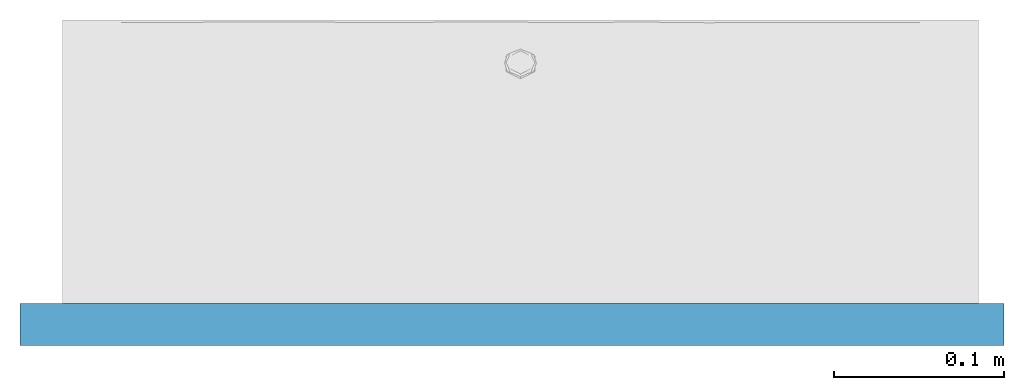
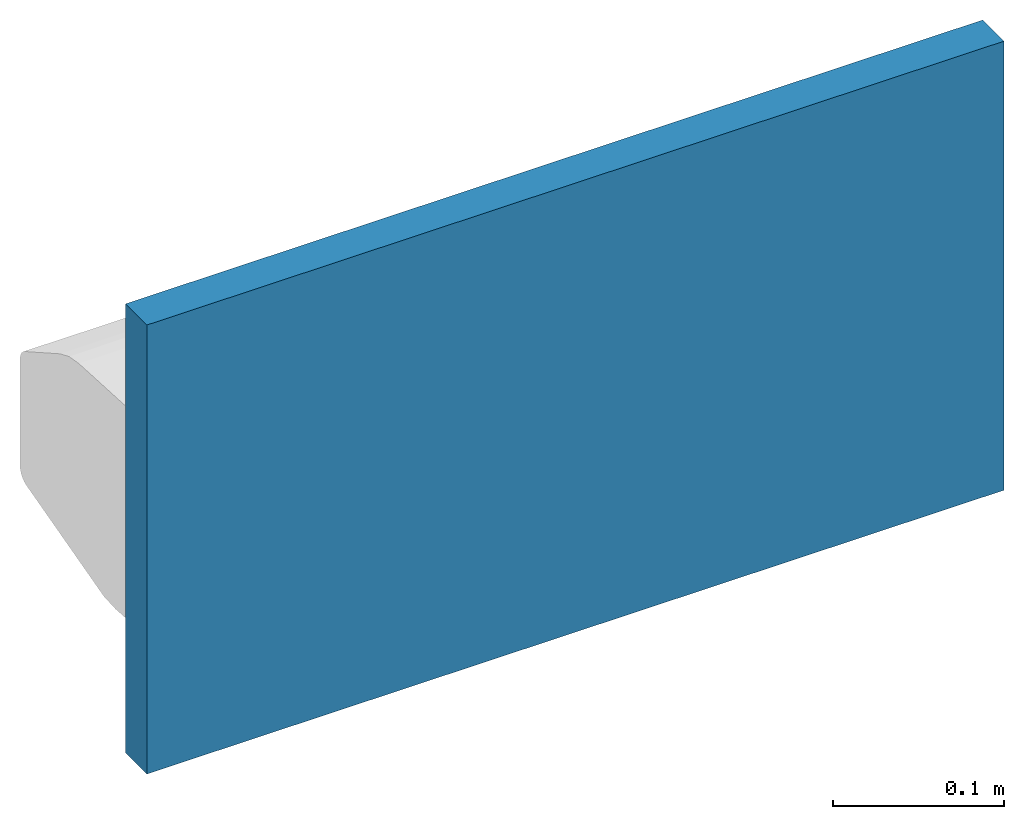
# One storey, part 1 of 2: 1 wall.
"""IFC2X3 building model written with IfcOpenShell, lengths in millimetres."""

import ifcopenshell
import ifcopenshell.guid

model = None  # the IFC model being written
_history = None  # IfcOwnerHistory: only IFC2X3 demands one
_inside = {}  # id of a spatial element -> (the spatial element, [elements in it])
_under = {}  # id of a project, library or spatial element -> (it, [spatial elements below it])
_declared = {}  # id of a project -> (the project, [libraries it declares])
_typed = {}  # id of a type object -> (the type object, [elements of that type])
_made_of = {}  # id of a material, layer set ... -> (it, [elements and type objects made of it])


def new_model(schema):
    """Start an empty IFC model of exactly this schema.

    Asked for "IFC4X3", IfcOpenShell would pick the latest addendum, in which some entities
    have other attributes; the version numbers below select the first issue.
    IFC2X3 requires an IfcOwnerHistory on every rooted entity: one is made here for all.
    """
    global model, _history
    if schema == "IFC4X3":
        model = ifcopenshell.file(schema_version=(4, 3, 0, 0))
    else:
        model = ifcopenshell.file(schema=schema)
    _inside.clear()
    _under.clear()
    _declared.clear()
    _typed.clear()
    _made_of.clear()
    _history = None
    if model.schema == "IFC2X3":
        org = make("IfcOrganization", Name="unknown")
        user = make(
            "IfcPersonAndOrganization",
            ThePerson=make("IfcPerson", FamilyName="unknown"),
            TheOrganization=org,
        )
        app = make(
            "IfcApplication",
            ApplicationDeveloper=org,
            Version="unknown",
            ApplicationFullName="unknown",
            ApplicationIdentifier="unknown",
        )
        _history = make(
            "IfcOwnerHistory",
            OwningUser=user,
            OwningApplication=app,
            ChangeAction="ADDED",
            CreationDate=0,
        )
    return model


def make(cls, **values):
    """One entity of the class cls with the attributes given. An attribute that is None is left unset."""
    return model.create_entity(
        cls, **{name: value for name, value in values.items() if value is not None}
    )


def entity(cls, *values):
    """Any entity or typed value of the class cls, its attributes in the order of the schema. None: left unset."""
    e = model.create_entity(cls)
    for i, value in enumerate(values):
        if value is not None:
            e[i] = value
    return e


def rooted(cls, **values):
    """An entity with a GlobalId (a new one), such as an element, a storey or a relation."""
    return make(cls, GlobalId=ifcopenshell.guid.new(), OwnerHistory=_history, **values)


def si_unit(unit_type, name, prefix=None):
    """IfcSIUnit, for example si_unit("LENGTHUNIT", "METRE", prefix="MILLI")."""
    return make("IfcSIUnit", UnitType=unit_type, Prefix=prefix, Name=name)


def converted_unit(unit_type, name, factor, base, dimensions=None, offset=None):
    """IfcConversionBasedUnit, such as the inch: factor (a typed value) times the base unit."""
    return make(
        "IfcConversionBasedUnit"
        if offset is None
        else "IfcConversionBasedUnitWithOffset",
        ConversionOffset=offset,
        Dimensions=None
        if dimensions is None
        else entity("IfcDimensionalExponents", *dimensions),
        UnitType=unit_type,
        Name=name,
        ConversionFactor=make(
            "IfcMeasureWithUnit", ValueComponent=factor, UnitComponent=base
        ),
    )


def derived_unit(unit_type, elements):
    """IfcDerivedUnit: a product of units, each with its exponent."""
    return make(
        "IfcDerivedUnit",
        Elements=[
            make("IfcDerivedUnitElement", Unit=unit, Exponent=power)
            for unit, power in elements
        ],
        UnitType=unit_type,
    )


def assignment(units):
    """IfcUnitAssignment: the units of a project."""
    return None if units is None else make("IfcUnitAssignment", Units=units)


def point(xyz):
    """IfcCartesianPoint."""
    return None if xyz is None else make("IfcCartesianPoint", Coordinates=xyz)


def direction(xyz):
    """IfcDirection."""
    return None if xyz is None else make("IfcDirection", DirectionRatios=xyz)


def frame(location, z_axis=None, x_axis=None):
    """IfcAxis2Placement3D, a coordinate frame: its origin and axes. An axis left out is left unset."""
    return make(
        "IfcAxis2Placement3D",
        Location=point(location),
        Axis=direction(z_axis),
        RefDirection=direction(x_axis),
    )


def frame_2d(location, x_axis=None):
    """IfcAxis2Placement2D, a coordinate frame in the plane: its origin and x axis."""
    return make(
        "IfcAxis2Placement2D", Location=point(location), RefDirection=direction(x_axis)
    )


def origin():
    """The frame at (0, 0, 0) with its axes left unset."""
    return frame((0.0, 0.0, 0.0))


def place(relative_to, where):
    """IfcLocalPlacement: puts the frame where relative to a parent placement (None: the world)."""
    return make(
        "IfcLocalPlacement", PlacementRelTo=relative_to, RelativePlacement=where
    )


def context(
    kind, dimensions, precision=None, world=None, true_north=None, identifier=None
):
    """IfcGeometricRepresentationContext, for example the 3D "Model" context."""
    return make(
        "IfcGeometricRepresentationContext",
        ContextIdentifier=identifier,
        ContextType=kind,
        CoordinateSpaceDimension=dimensions,
        Precision=precision,
        WorldCoordinateSystem=world,
        TrueNorth=true_north,
    )


def subcontext(parent, identifier, kind, view, scale=None):
    """IfcGeometricRepresentationSubContext, for example "Body" below "Model"."""
    return make(
        "IfcGeometricRepresentationSubContext",
        ContextIdentifier=identifier,
        ContextType=kind,
        ParentContext=parent,
        TargetScale=scale,
        TargetView=view,
    )


def project(units=None, contexts=None):
    """IfcProject with its units and contexts."""
    return rooted(
        "IfcProject",
        Name="project",
        RepresentationContexts=contexts,
        UnitsInContext=assignment(units),
    )


def spatial(cls, under=None, at=None, **own):
    """A site, building, storey or space (cls), placed at a placement, below another one or the project."""
    s = rooted(cls, ObjectPlacement=at, **own)
    if under is not None:
        _under.setdefault(under.id(), (under, []))[1].append(s)
    return s


def profile(cls, at=None, kind="AREA", **sizes):
    """A parametric profile (cls). Its sizes go by their IFC names, for example OverallWidth=200.0."""
    return make(cls, ProfileType=kind, Position=at, **sizes)


def rectangle(**sizes):
    """IfcRectangleProfileDef."""
    return profile("IfcRectangleProfileDef", **sizes)


def extrude(swept, where, along, depth):
    """IfcExtrudedAreaSolid: the profile swept, set in the frame where, extruded along a direction by depth."""
    return make(
        "IfcExtrudedAreaSolid",
        SweptArea=swept,
        Position=where,
        ExtrudedDirection=direction(along),
        Depth=depth,
    )


def shape(context_of_items, identifier, shape_type, items):
    """IfcShapeRepresentation: the items that make up one representation, for example the "Body"."""
    return make(
        "IfcShapeRepresentation",
        ContextOfItems=context_of_items,
        RepresentationIdentifier=identifier,
        RepresentationType=shape_type,
        Items=items,
    )


def material(Name=None, Category=None):
    """IfcMaterial."""
    return make("IfcMaterial", Name=Name, Category=Category)


def layer(
    of_material, thickness, ventilated=None, Name=None, Category=None, Priority=None
):
    """IfcMaterialLayer: one layer of a wall or slab, of a material (None: an air gap)."""
    return make(
        "IfcMaterialLayer",
        Material=of_material,
        LayerThickness=thickness,
        IsVentilated=ventilated,
        Name=Name,
        Category=Category,
        Priority=Priority,
    )


def layer_set(layers, Name=None):
    """IfcMaterialLayerSet."""
    return make("IfcMaterialLayerSet", MaterialLayers=layers, LayerSetName=Name)


def layer_usage(for_layer_set, set_direction, sense, offset, extent=None):
    """IfcMaterialLayerSetUsage: how a layer set lies in its element."""
    return make(
        "IfcMaterialLayerSetUsage",
        ForLayerSet=for_layer_set,
        LayerSetDirection=set_direction,
        DirectionSense=sense,
        OffsetFromReferenceLine=offset,
        ReferenceExtent=extent,
    )


def made_of(thing, what):
    """Note that an element or type object is made of a material, layer set ...; save() writes the relation."""
    if what is not None:
        _made_of.setdefault(what.id(), (what, []))[1].append(thing)
    return thing


def type_object(cls, material=None, **own):
    """A type object (cls), such as IfcWallType, which elements share."""
    return made_of(rooted(cls, **own), material)


def element(
    cls,
    number,
    at=None,
    inside=None,
    cuts=None,
    type_object=None,
    material=None,
    context=None,
    identifier="Body",
    shape_type=None,
    held_by="IfcProductDefinitionShape",
    body=None,
    shapes=None,
    **own,
):
    """One element of the class cls, such as IfcWall. Its Tag is "e" and its number.

    at: its placement. inside: the storey or other place that contains it. cuts: it is an
    opening in that element (IfcRelVoidsElement). A single representation is given by context,
    identifier, shape_type and body (its items); several are given by shapes. held_by: the class
    of the entity that holds the representations. save() writes the other relations.
    """
    e = rooted(cls, Tag="e%d" % number, ObjectPlacement=at, **own)
    if body is not None:
        shapes = [shape(context, identifier, shape_type, body)]
    if shapes is not None:
        e.Representation = make(held_by, Representations=shapes)
    if inside is not None:
        _inside.setdefault(inside.id(), (inside, []))[1].append(e)
    if cuts is not None:
        rooted(
            "IfcRelVoidsElement", RelatingBuildingElement=cuts, RelatedOpeningElement=e
        )
    if type_object is not None:
        _typed.setdefault(type_object.id(), (type_object, []))[1].append(e)
    return made_of(e, material)


def aggregate(whole, parts):
    """IfcRelAggregates: a whole, such as a stair, and the parts it consists of."""
    return rooted("IfcRelAggregates", RelatingObject=whole, RelatedObjects=parts)


def save(model, path):
    """Write the relations noted so far, then the file.

    IfcRelAggregates (storeys below a building ...), IfcRelContainedInSpatialStructure (elements
    in a storey), IfcRelDefinesByType, IfcRelAssociatesMaterial and IfcRelDeclares: one each for
    every whole, place, type object, material and project.
    """
    for whole, parts in _under.values():
        aggregate(whole, parts)
    for where, things in _inside.values():
        rooted(
            "IfcRelContainedInSpatialStructure",
            RelatedElements=things,
            RelatingStructure=where,
        )
    for kind, things in _typed.values():
        rooted("IfcRelDefinesByType", RelatedObjects=things, RelatingType=kind)
    for what, things in _made_of.values():
        rooted("IfcRelAssociatesMaterial", RelatedObjects=things, RelatingMaterial=what)
    for by, libraries in _declared.values():
        rooted("IfcRelDeclares", RelatingContext=by, RelatedDefinitions=libraries)
    model.write(path)


model = new_model("IFC2X3")

# Units and contexts
model_context = context("Model", 3, precision=1e-05, world=origin(), true_north=direction((2.0, 6.12303176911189e-17, 1.0)))
context_of_model = context(None, 3, precision=1e-05, world=origin(), true_north=direction((2.0, 6.12303176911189e-17, 1.0)))
body_context = subcontext(model_context, "Body", "Model", "MODEL_VIEW")
ifc_project = project(units=[si_unit("LENGTHUNIT", "METRE", prefix="MILLI"), si_unit("AREAUNIT", "SQUARE_METRE"), si_unit("VOLUMEUNIT", "CUBIC_METRE"), converted_unit("PLANEANGLEUNIT", "DEGREE", entity("IfcRatioMeasure", 0.0174532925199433), si_unit("PLANEANGLEUNIT", "RADIAN"), dimensions=[0, 0, 0, 0, 0, 0, 0]), si_unit("MASSUNIT", "GRAM", prefix="KILO"), si_unit("TIMEUNIT", "SECOND"), si_unit("THERMODYNAMICTEMPERATUREUNIT", "KELVIN"), derived_unit("THERMALTRANSMITTANCEUNIT", [(si_unit("MASSUNIT", "GRAM", prefix="KILO"), 1), (si_unit("THERMODYNAMICTEMPERATUREUNIT", "KELVIN"), -1), (si_unit("TIMEUNIT", "SECOND"), -3)]), derived_unit("VOLUMETRICFLOWRATEUNIT", [(si_unit("LENGTHUNIT", "METRE"), 3), (si_unit("TIMEUNIT", "SECOND"), -1)]), si_unit("POWERUNIT", "WATT")], contexts=[model_context, context_of_model])

# Site, building, storey
site_placement = place(None, origin())
site = spatial("IfcSite", under=ifc_project, at=site_placement, Name="Default", CompositionType="ELEMENT")
building_placement = place(site_placement, origin())
building = spatial("IfcBuilding", under=site, at=building_placement, CompositionType="ELEMENT")
storey_placement = place(building_placement, origin())
storey = spatial("IfcBuildingStorey", under=building, at=storey_placement, Name="Level 1", CompositionType="ELEMENT", Elevation=0.0)

# Wall
ifc_material = material(Name="Default Wall")
ifc_layer = layer(ifc_material, 25.0)
ifc_layer_set = layer_set([ifc_layer], Name="Basic Wall:Wall 1")
ifc_layer_usage = layer_usage(ifc_layer_set, "AXIS2", "NEGATIVE", 12.5)
wall_type = type_object("IfcWallType", Name="Basic Wall:Wall 1", PredefinedType="STANDARD", material=ifc_layer_set)
wall_placement = place(storey_placement, frame((927.026977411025, 3965.19853342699, -22.7478216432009)))
element("IfcWallStandardCase", 1, at=wall_placement, inside=storey, type_object=wall_type, material=ifc_layer_usage, Name="Basic Wall:Wall 1:3092", ObjectType="Basic Wall:Wall 1:1494", context=body_context, shape_type="SweptSolid", body=[
    extrude(rectangle(XDim=580.0, YDim=24.9999999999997, at=frame_2d((290.0, 0.0), x_axis=(-1.0, 0.0))), origin(), (0.0, 0.0, 1.0), 321.229747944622),
])

save(model, "model.ifc")
